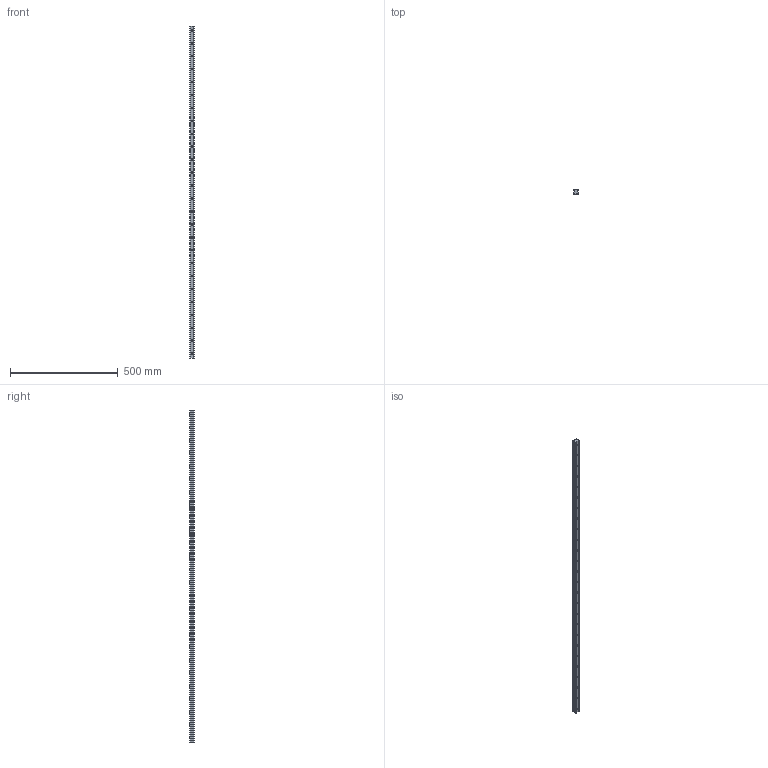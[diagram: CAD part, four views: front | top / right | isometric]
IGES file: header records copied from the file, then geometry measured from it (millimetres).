
Start section: SolidWorks IGES file using analytic representation for surfaces
Global section: file name: C:\Users\IanO\Desktop\L1016_v2\L1016.BL25_v2\L1016.BL25_v2_20160611_IGES\L1016.BL25-1540.igs; native system: SolidWorks 2017; preprocessor: SolidWorks 2017; author: IanO; date: 190612.130814; units: millimetre
Bounding box: 23 x 19.2 x 1540 mm (x, y, z)
Surface area: 146150.7 mm2 (no closed solid volume)
Topology: 0 solids, 0 shells, 156 faces, 3912 edges, 3912 vertices
Faces by surface type: revolution 108, bspline 48
